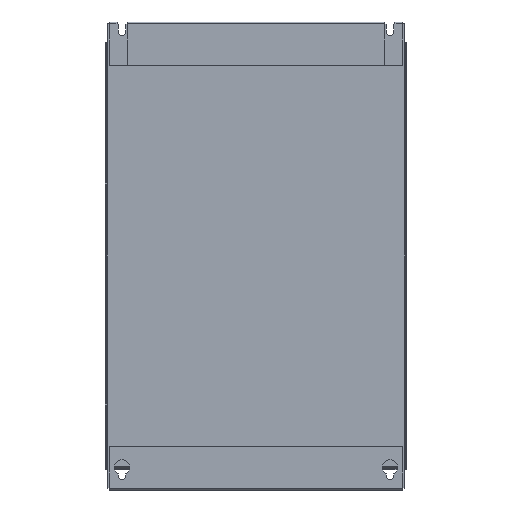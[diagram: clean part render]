
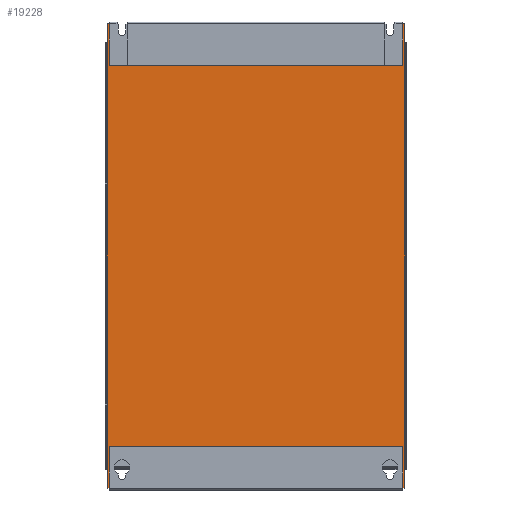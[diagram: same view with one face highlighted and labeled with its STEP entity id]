
A CAD part, front view. The second image highlights one B-rep face of the part: STEP entity #19228.
In plain terms, the highlighted planar face has unit normal (0, -1, 0).
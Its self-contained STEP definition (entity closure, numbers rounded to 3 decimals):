
#1=DIRECTION('',(0.707,0.,0.707));
#2=VECTOR('',#1,2.121);
#3=CARTESIAN_POINT('',(22.,0.,-1.5));
#4=LINE('',#3,#2);
#5=DIRECTION('',(1.,0.,0.));
#6=VECTOR('',#5,308.);
#7=CARTESIAN_POINT('',(23.5,0.,0.));
#8=LINE('',#7,#6);
#9=DIRECTION('',(0.707,0.,-0.707));
#10=VECTOR('',#9,2.121);
#11=CARTESIAN_POINT('',(331.5,0.,0.));
#12=LINE('',#11,#10);
#13=DIRECTION('',(0.,0.,-1.));
#14=VECTOR('',#13,8.5);
#15=CARTESIAN_POINT('',(333.,0.,-1.5));
#16=LINE('',#15,#14);
#17=CARTESIAN_POINT('',(337.5,0.,-10.));
#18=DIRECTION('',(0.,-1.,0.));
#19=DIRECTION('',(-1.,0.,0.));
#20=AXIS2_PLACEMENT_3D('',#17,#18,#19);
#22=DIRECTION('',(0.,0.,1.));
#23=VECTOR('',#22,8.5);
#24=CARTESIAN_POINT('',(342.,0.,-10.));
#25=LINE('',#24,#23);
#26=DIRECTION('',(0.707,0.,0.707));
#27=VECTOR('',#26,2.121);
#28=CARTESIAN_POINT('',(342.,0.,-1.5));
#29=LINE('',#28,#27);
#30=DIRECTION('',(1.,0.,0.));
#31=VECTOR('',#30,11.5);
#32=CARTESIAN_POINT('',(343.5,0.,0.));
#33=LINE('',#32,#31);
#34=DIRECTION('',(0.,0.,-1.));
#35=VECTOR('',#34,555.);
#36=CARTESIAN_POINT('',(355.,0.,0.));
#37=LINE('',#36,#35);
#38=DIRECTION('',(-1.,0.,0.));
#39=VECTOR('',#38,2.);
#40=CARTESIAN_POINT('',(355.,0.,-555.));
#41=LINE('',#40,#39);
#42=DIRECTION('',(-1.,0.,0.));
#43=VECTOR('',#42,351.);
#44=CARTESIAN_POINT('',(353.,0.,-555.));
#45=LINE('',#44,#43);
#46=DIRECTION('',(-1.,0.,0.));
#47=VECTOR('',#46,2.);
#48=CARTESIAN_POINT('',(2.,0.,-555.));
#49=LINE('',#48,#47);
#50=DIRECTION('',(0.,0.,1.));
#51=VECTOR('',#50,555.);
#52=CARTESIAN_POINT('',(0.,0.,-555.));
#53=LINE('',#52,#51);
#54=DIRECTION('',(1.,0.,0.));
#55=VECTOR('',#54,11.5);
#56=CARTESIAN_POINT('',(0.,0.,0.));
#57=LINE('',#56,#55);
#58=DIRECTION('',(0.707,0.,-0.707));
#59=VECTOR('',#58,2.121);
#60=CARTESIAN_POINT('',(11.5,0.,0.));
#61=LINE('',#60,#59);
#62=DIRECTION('',(0.,0.,-1.));
#63=VECTOR('',#62,8.5);
#64=CARTESIAN_POINT('',(13.,0.,-1.5));
#65=LINE('',#64,#63);
#66=CARTESIAN_POINT('',(17.5,0.,-10.));
#67=DIRECTION('',(0.,-1.,0.));
#68=DIRECTION('',(-1.,0.,0.));
#69=AXIS2_PLACEMENT_3D('',#66,#67,#68);
#71=DIRECTION('',(0.,0.,1.));
#72=VECTOR('',#71,8.5);
#73=CARTESIAN_POINT('',(22.,0.,-10.));
#74=LINE('',#73,#72);
#75=DIRECTION('',(0.,0.,1.));
#76=VECTOR('',#75,2.206);
#77=CARTESIAN_POINT('',(342.,0.,-540.));
#78=LINE('',#77,#76);
#79=CARTESIAN_POINT('',(337.5,0.,-530.));
#80=DIRECTION('',(0.,-1.,0.));
#81=DIRECTION('',(0.5,0.,-0.866));
#82=AXIS2_PLACEMENT_3D('',#79,#80,#81);
#84=CARTESIAN_POINT('',(337.5,0.,-530.));
#85=DIRECTION('',(0.,-1.,0.));
#86=DIRECTION('',(0.5,0.,0.866));
#87=AXIS2_PLACEMENT_3D('',#84,#85,#86);
#89=DIRECTION('',(0.,0.,-1.));
#90=VECTOR('',#89,2.206);
#91=CARTESIAN_POINT('',(333.,0.,-537.794));
#92=LINE('',#91,#90);
#93=CARTESIAN_POINT('',(337.5,0.,-540.));
#94=DIRECTION('',(0.,-1.,0.));
#95=DIRECTION('',(-1.,0.,0.));
#96=AXIS2_PLACEMENT_3D('',#93,#94,#95);
#98=DIRECTION('',(0.,0.,1.));
#99=VECTOR('',#98,2.206);
#100=CARTESIAN_POINT('',(22.,0.,-540.));
#101=LINE('',#100,#99);
#102=CARTESIAN_POINT('',(17.5,0.,-530.));
#103=DIRECTION('',(0.,-1.,0.));
#104=DIRECTION('',(0.5,0.,-0.866));
#105=AXIS2_PLACEMENT_3D('',#102,#103,#104);
#107=CARTESIAN_POINT('',(17.5,0.,-530.));
#108=DIRECTION('',(0.,-1.,0.));
#109=DIRECTION('',(0.5,0.,0.866));
#110=AXIS2_PLACEMENT_3D('',#107,#108,#109);
#112=DIRECTION('',(0.,0.,-1.));
#113=VECTOR('',#112,2.206);
#114=CARTESIAN_POINT('',(13.,0.,-537.794));
#115=LINE('',#114,#113);
#116=CARTESIAN_POINT('',(17.5,0.,-540.));
#117=DIRECTION('',(0.,-1.,0.));
#118=DIRECTION('',(-1.,0.,0.));
#119=AXIS2_PLACEMENT_3D('',#116,#117,#118);
#14437=CARTESIAN_POINT('',(22.,0.,-1.5));
#14438=CARTESIAN_POINT('',(23.5,0.,0.));
#14439=VERTEX_POINT('',#14437);
#14440=VERTEX_POINT('',#14438);
#14441=CARTESIAN_POINT('',(331.5,0.,0.));
#14442=VERTEX_POINT('',#14441);
#14443=CARTESIAN_POINT('',(333.,0.,-1.5));
#14444=VERTEX_POINT('',#14443);
#14445=CARTESIAN_POINT('',(333.,0.,-10.));
#14446=VERTEX_POINT('',#14445);
#14447=CARTESIAN_POINT('',(342.,0.,-10.));
#14448=VERTEX_POINT('',#14447);
#14449=CARTESIAN_POINT('',(342.,0.,-1.5));
#14450=VERTEX_POINT('',#14449);
#14451=CARTESIAN_POINT('',(343.5,0.,0.));
#14452=VERTEX_POINT('',#14451);
#14453=CARTESIAN_POINT('',(355.,0.,0.));
#14454=VERTEX_POINT('',#14453);
#14455=CARTESIAN_POINT('',(355.,0.,-555.));
#14456=VERTEX_POINT('',#14455);
#14457=CARTESIAN_POINT('',(353.,0.,-555.));
#14458=VERTEX_POINT('',#14457);
#14459=CARTESIAN_POINT('',(2.,0.,-555.));
#14460=VERTEX_POINT('',#14459);
#14461=CARTESIAN_POINT('',(0.,0.,-555.));
#14462=VERTEX_POINT('',#14461);
#14463=CARTESIAN_POINT('',(0.,0.,0.));
#14464=VERTEX_POINT('',#14463);
#14465=CARTESIAN_POINT('',(11.5,0.,0.));
#14466=VERTEX_POINT('',#14465);
#14467=CARTESIAN_POINT('',(13.,0.,-1.5));
#14468=VERTEX_POINT('',#14467);
#14469=CARTESIAN_POINT('',(13.,0.,-10.));
#14470=VERTEX_POINT('',#14469);
#14471=CARTESIAN_POINT('',(22.,0.,-10.));
#14472=VERTEX_POINT('',#14471);
#14473=CARTESIAN_POINT('',(342.,0.,-540.));
#14474=CARTESIAN_POINT('',(342.,0.,-537.794));
#14475=VERTEX_POINT('',#14473);
#14476=VERTEX_POINT('',#14474);
#14477=CARTESIAN_POINT('',(342.,0.,-522.206));
#14478=CARTESIAN_POINT('',(333.,0.,-537.794));
#14479=VERTEX_POINT('',#14477);
#14480=VERTEX_POINT('',#14478);
#14481=CARTESIAN_POINT('',(333.,0.,-540.));
#14482=VERTEX_POINT('',#14481);
#14483=CARTESIAN_POINT('',(22.,0.,-540.));
#14484=CARTESIAN_POINT('',(22.,0.,-537.794));
#14485=VERTEX_POINT('',#14483);
#14486=VERTEX_POINT('',#14484);
#14487=CARTESIAN_POINT('',(22.,0.,-522.206));
#14488=CARTESIAN_POINT('',(13.,0.,-537.794));
#14489=VERTEX_POINT('',#14487);
#14490=VERTEX_POINT('',#14488);
#14491=CARTESIAN_POINT('',(13.,0.,-540.));
#14492=VERTEX_POINT('',#14491);
#19161=CARTESIAN_POINT('',(0.,0.,0.));
#19162=DIRECTION('',(0.,1.,0.));
#19163=DIRECTION('',(1.,0.,0.));
#19164=AXIS2_PLACEMENT_3D('',#19161,#19162,#19163);
#19165=PLANE('',#19164);
#19167=ORIENTED_EDGE('',*,*,#19166,.T.);
#19169=ORIENTED_EDGE('',*,*,#19168,.T.);
#19171=ORIENTED_EDGE('',*,*,#19170,.T.);
#19173=ORIENTED_EDGE('',*,*,#19172,.T.);
#19175=ORIENTED_EDGE('',*,*,#19174,.T.);
#19177=ORIENTED_EDGE('',*,*,#19176,.T.);
#19179=ORIENTED_EDGE('',*,*,#19178,.T.);
#19181=ORIENTED_EDGE('',*,*,#19180,.T.);
#19183=ORIENTED_EDGE('',*,*,#19182,.T.);
#19185=ORIENTED_EDGE('',*,*,#19184,.T.);
#19187=ORIENTED_EDGE('',*,*,#19186,.T.);
#19189=ORIENTED_EDGE('',*,*,#19188,.T.);
#19191=ORIENTED_EDGE('',*,*,#19190,.T.);
#19193=ORIENTED_EDGE('',*,*,#19192,.T.);
#19195=ORIENTED_EDGE('',*,*,#19194,.T.);
#19197=ORIENTED_EDGE('',*,*,#19196,.T.);
#19199=ORIENTED_EDGE('',*,*,#19198,.T.);
#19201=ORIENTED_EDGE('',*,*,#19200,.T.);
#19202=EDGE_LOOP('',(#19167,#19169,#19171,#19173,#19175,#19177,#19179,#19181,
#19183,#19185,#19187,#19189,#19191,#19193,#19195,#19197,#19199,#19201));
#19203=FACE_OUTER_BOUND('',#19202,.F.);
#19205=ORIENTED_EDGE('',*,*,#19204,.T.);
#19207=ORIENTED_EDGE('',*,*,#19206,.T.);
#19209=ORIENTED_EDGE('',*,*,#19208,.T.);
#19211=ORIENTED_EDGE('',*,*,#19210,.T.);
#19213=ORIENTED_EDGE('',*,*,#19212,.T.);
#19214=EDGE_LOOP('',(#19205,#19207,#19209,#19211,#19213));
#19215=FACE_BOUND('',#19214,.F.);
#19217=ORIENTED_EDGE('',*,*,#19216,.T.);
#19219=ORIENTED_EDGE('',*,*,#19218,.T.);
#19221=ORIENTED_EDGE('',*,*,#19220,.T.);
#19223=ORIENTED_EDGE('',*,*,#19222,.T.);
#19225=ORIENTED_EDGE('',*,*,#19224,.T.);
#19226=EDGE_LOOP('',(#19217,#19219,#19221,#19223,#19225));
#19227=FACE_BOUND('',#19226,.F.);
#19228=ADVANCED_FACE('',(#19203,#19215,#19227),#19165,.F.);
#21=CIRCLE('',#20,4.5);
#70=CIRCLE('',#69,4.5);
#83=CIRCLE('',#82,9.);
#88=CIRCLE('',#87,9.);
#97=CIRCLE('',#96,4.5);
#106=CIRCLE('',#105,9.);
#111=CIRCLE('',#110,9.);
#120=CIRCLE('',#119,4.5);
#19166=EDGE_CURVE('',#14439,#14440,#4,.T.);
#19168=EDGE_CURVE('',#14440,#14442,#8,.T.);
#19170=EDGE_CURVE('',#14442,#14444,#12,.T.);
#19172=EDGE_CURVE('',#14444,#14446,#16,.T.);
#19174=EDGE_CURVE('',#14446,#14448,#21,.T.);
#19176=EDGE_CURVE('',#14448,#14450,#25,.T.);
#19178=EDGE_CURVE('',#14450,#14452,#29,.T.);
#19180=EDGE_CURVE('',#14452,#14454,#33,.T.);
#19182=EDGE_CURVE('',#14454,#14456,#37,.T.);
#19184=EDGE_CURVE('',#14456,#14458,#41,.T.);
#19186=EDGE_CURVE('',#14458,#14460,#45,.T.);
#19188=EDGE_CURVE('',#14460,#14462,#49,.T.);
#19190=EDGE_CURVE('',#14462,#14464,#53,.T.);
#19192=EDGE_CURVE('',#14464,#14466,#57,.T.);
#19194=EDGE_CURVE('',#14466,#14468,#61,.T.);
#19196=EDGE_CURVE('',#14468,#14470,#65,.T.);
#19198=EDGE_CURVE('',#14470,#14472,#70,.T.);
#19200=EDGE_CURVE('',#14472,#14439,#74,.T.);
#19204=EDGE_CURVE('',#14475,#14476,#78,.T.);
#19206=EDGE_CURVE('',#14476,#14479,#83,.T.);
#19208=EDGE_CURVE('',#14479,#14480,#88,.T.);
#19210=EDGE_CURVE('',#14480,#14482,#92,.T.);
#19212=EDGE_CURVE('',#14482,#14475,#97,.T.);
#19216=EDGE_CURVE('',#14485,#14486,#101,.T.);
#19218=EDGE_CURVE('',#14486,#14489,#106,.T.);
#19220=EDGE_CURVE('',#14489,#14490,#111,.T.);
#19222=EDGE_CURVE('',#14490,#14492,#115,.T.);
#19224=EDGE_CURVE('',#14492,#14485,#120,.T.);
